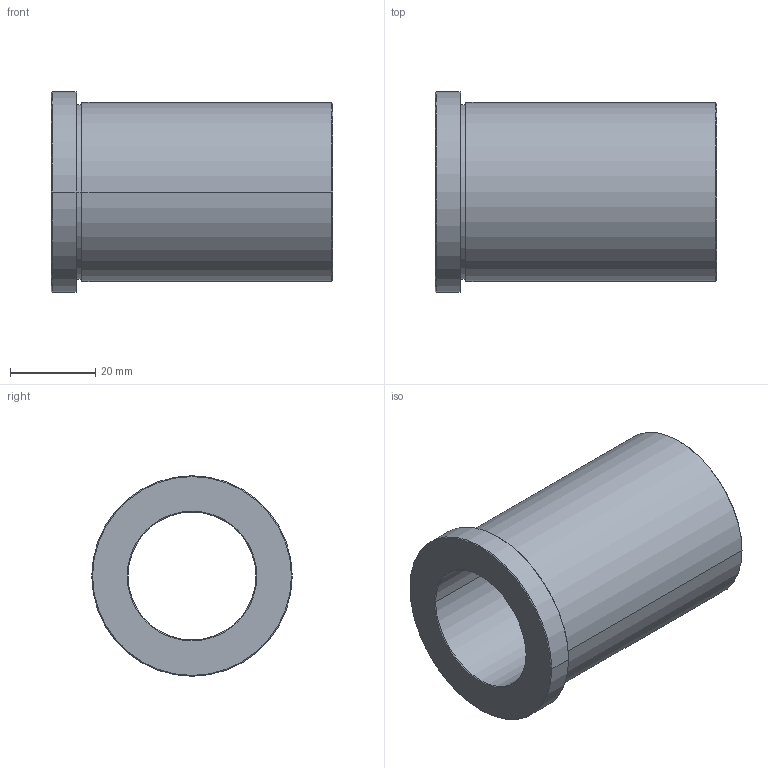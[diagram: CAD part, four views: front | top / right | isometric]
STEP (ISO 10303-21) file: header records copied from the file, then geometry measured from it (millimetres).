
FILE_DESCRIPTION (( 'STEP AP214' ), '1' );
FILE_NAME ('R03_066x30.STEP', '2015-03-05T14:47:55', ( 'TGL' ), ( '' ), 'SwSTEP 2.0', 'SolidWorks 2011', '' );
FILE_SCHEMA (( 'AUTOMOTIVE_DESIGN' ));
Length unit declared in the file: millimetre
Products named in the file (1): R03_066x30
Bounding box: 66 x 47 x 47 mm (x, y, z)
Volume: 46410.1 mm3; surface area: 16964.6 mm2
Topology: 1 solids, 1 shells, 24 faces, 48 edges, 28 vertices
Faces by surface type: cone 10, cylinder 8, plane 4, torus 2
Entity records: 730 total; most frequent: DIRECTION 128, CARTESIAN_POINT 101, ORIENTED_EDGE 96, AXIS2_PLACEMENT_3D 55, EDGE_CURVE 48, CIRCLE 30, VERTEX_POINT 28, EDGE_LOOP 28
